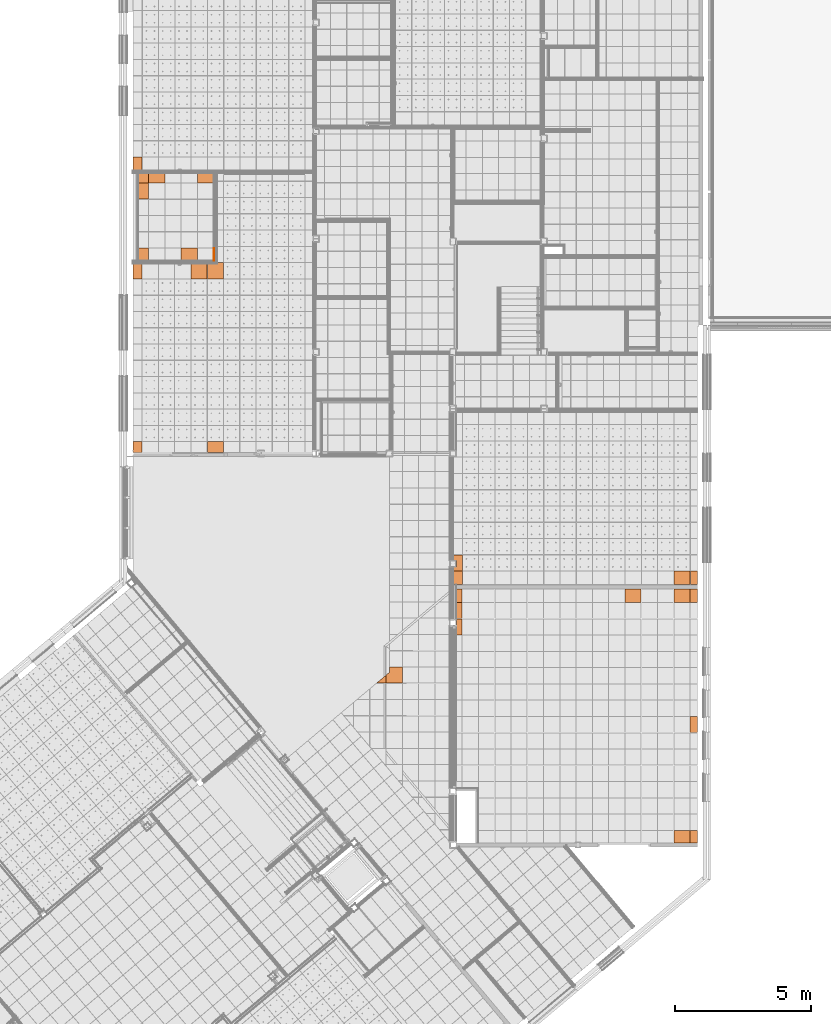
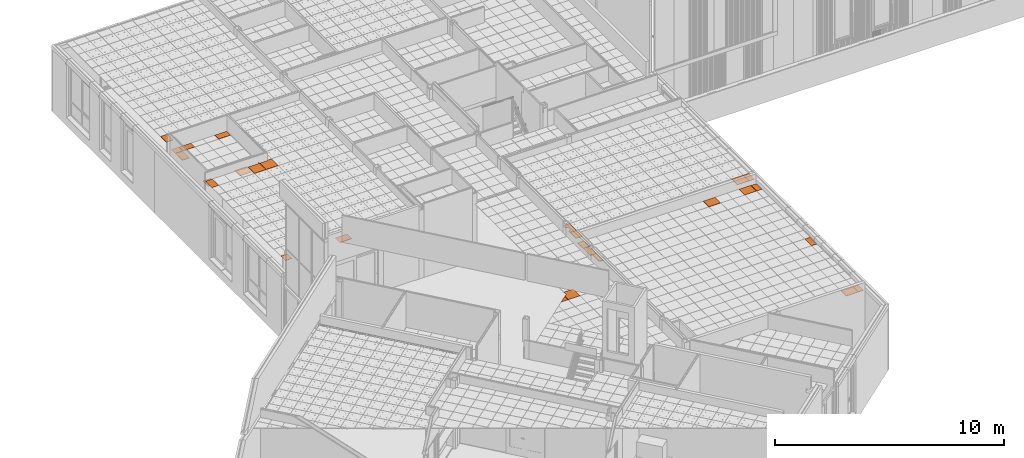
# One storey, part 331 of 338: 28 proxies, 6 elements without a shape of their own.
"""IFC2X3 building model written with IfcOpenShell, lengths in millimetres."""

from ifc_helpers import new_model, entity, si_unit, converted_unit, derived_unit, money_unit, direction, frame, origin_with_axes, place, context, subcontext, project, spatial, faceted_brep, material, type_object, element, aggregate, save


model = new_model("IFC2X3")

# Units and contexts
model_context = context("Model", 3, precision=0.01, world=origin_with_axes(), true_north=direction((0.0, 1.0)))
plan_context = context("Plan", 3, precision=0.01, world=origin_with_axes(), true_north=direction((0.0, 1.0)))
body_context = subcontext(model_context, "Body", "Model", "MODEL_VIEW")
ifc_project = project(units=[si_unit("LENGTHUNIT", "METRE", prefix="MILLI"), si_unit("AREAUNIT", "SQUARE_METRE"), si_unit("VOLUMEUNIT", "CUBIC_METRE"), converted_unit("PLANEANGLEUNIT", "DEGREE", entity("IfcPlaneAngleMeasure", 0.0174532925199), si_unit("PLANEANGLEUNIT", "RADIAN"), dimensions=[0, 0, 0, 0, 0, 0, 0]), money_unit("EUR"), converted_unit("TIMEUNIT", "Year", entity("IfcTimeMeasure", 31556926.0), si_unit("TIMEUNIT", "SECOND"), dimensions=[0, 0, 1, 0, 0, 0, 0]), si_unit("MASSUNIT", "GRAM", prefix="KILO"), si_unit("THERMODYNAMICTEMPERATUREUNIT", "DEGREE_CELSIUS"), si_unit("LUMINOUSINTENSITYUNIT", "LUMEN"), si_unit("ENERGYUNIT", "JOULE", prefix="MEGA"), derived_unit("THERMALCONDUCTANCEUNIT", [(si_unit("POWERUNIT", "WATT"), 1), (si_unit("LENGTHUNIT", "METRE"), -1), (si_unit("THERMODYNAMICTEMPERATUREUNIT", "KELVIN"), -1)]), derived_unit("SPECIFICHEATCAPACITYUNIT", [(si_unit("ENERGYUNIT", "JOULE"), 1), (si_unit("MASSUNIT", "GRAM", prefix="KILO"), -1), (si_unit("THERMODYNAMICTEMPERATUREUNIT", "KELVIN"), -1)]), derived_unit("MASSDENSITYUNIT", [(si_unit("MASSUNIT", "GRAM", prefix="KILO"), 1), (si_unit("VOLUMEUNIT", "CUBIC_METRE"), -1)])], contexts=[model_context, plan_context])

# Site, building, storey
site_placement = place(None, origin_with_axes())
site = spatial("IfcSite", under=ifc_project, at=site_placement, Name="Fortuinstraat Woensdrecht", CompositionType="ELEMENT")
building_placement = place(site_placement, origin_with_axes())
building = spatial("IfcBuilding", under=site, at=building_placement, Name="IKC Fortuna", CompositionType="ELEMENT")
storey_placement = place(building_placement, origin_with_axes())
storey = spatial("IfcBuildingStorey", under=building, at=storey_placement, Name="00 begane grond", CompositionType="ELEMENT", Elevation=0.0)

# Covering, proxy
covering_type = type_object("IfcCoveringType", Name="Curtain Wall Type", PredefinedType="CEILING")
covering_1_placement = place(storey_placement, frame((15059.4416165, 34009.703821, 3210.0), z_axis=(0.0, 0.0, 1.0), x_axis=(1.0, 0.0, 0.0)))
covering_1 = element("IfcCovering", 1, at=covering_1_placement, inside=storey, type_object=covering_type, Name="45_Plafondafwerking_P01", PredefinedType="CEILING")
ifc_material = material(Name="Gipsplaat")
building_element_proxy_type_1 = type_object("IfcBuildingElementProxyType", Name="Main Panel 350 x 503 x 20", PredefinedType="NOTDEFINED")
proxy_1_placement = place(covering_1_placement, frame((-1075.00332811, -7151.29641444, 2.11386463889e-10), z_axis=(0.0, 0.0, 1.0), x_axis=(1.0, 0.0, 0.0)))
proxy_1 = element("IfcBuildingElementProxy", 2, at=proxy_1_placement, type_object=building_element_proxy_type_1, material=ifc_material, Name="__Panel-D", context=body_context, shape_type="Brep", body=[
    faceted_brep([(172.503326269, 248.796414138, -10.0), (-172.503327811, 248.796414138, -10.0), (-172.503327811, 248.796414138, 9.99999999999), (172.503326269, 248.796414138, 9.99999999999), (172.503326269, -248.796414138, -10.0), (-172.503327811, -248.796414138, -10.0), (-172.503327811, -248.796414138, 9.99999999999), (172.503326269, -248.796414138, 9.99999999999)], [[[0, 1, 2, 3]], [[0, 4, 5, 1]], [[1, 5, 6, 2]], [[3, 2, 6, 7]], [[4, 0, 3, 7]], [[5, 4, 7, 6]]]),
])
aggregate(covering_1, [proxy_1])

# Covering, proxies
covering_2_placement = place(storey_placement, frame((34484.9342671, 3789.29664615, 3065.0), z_axis=(0.0, 0.0, 1.0), x_axis=(1.0, 0.0, 0.0)))
covering_2 = element("IfcCovering", 3, at=covering_2_placement, inside=storey, type_object=covering_type, Name="45_Plafondafwerking_P02 gec", PredefinedType="CEILING")
building_element_proxy_type_2 = type_object("IfcBuildingElementProxyType", Name="Distinct Panel 269 x 600 x 20", PredefinedType="NOTDEFINED")
proxy_2_placement = place(covering_2_placement, frame((0.0, 2400.0, 2.87325718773e-10), z_axis=(0.0, 0.0, 1.0), x_axis=(1.0, 0.0, 0.0)))
proxy_2 = element("IfcBuildingElementProxy", 4, at=proxy_2_placement, type_object=building_element_proxy_type_2, material=ifc_material, Name="__Panel-D", context=body_context, shape_type="Brep", body=[
    faceted_brep([(-131.99272743, 297.5, -10.0), (-131.99272743, 297.5, 10.0), (131.992726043, 297.5, 10.0), (131.992726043, 297.5, -10.0), (-131.99272743, -297.5, -10.0), (-131.99272743, -297.5, 10.0), (131.992726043, -297.5, 10.0), (131.992726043, -297.5, -10.0)], [[[0, 1, 2, 3]], [[4, 5, 1, 0]], [[1, 5, 6, 2]], [[3, 2, 6, 7]], [[0, 3, 7, 4]], [[7, 6, 5, 4]]]),
])
building_element_proxy_type_3 = type_object("IfcBuildingElementProxyType", Name="Distinct Panel 600 x 462 x 20", PredefinedType="NOTDEFINED")
proxy_3_placement = place(covering_2_placement, frame((-434.492726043, -1730.99988505, 2.73558953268e-10), z_axis=(0.0, 0.0, 1.0), x_axis=(1.0, 0.0, 0.0)))
proxy_3 = element("IfcBuildingElementProxy", 5, at=proxy_3_placement, type_object=building_element_proxy_type_3, material=ifc_material, Name="__Panel-D", context=body_context, shape_type="Brep", body=[
    faceted_brep([(-297.5, 228.4998861, -10.0), (-297.5, 228.4998861, 9.99999999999), (297.5, 228.4998861, 9.99999999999), (297.5, 228.4998861, -10.0), (-297.5, -228.499532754, -10.0), (-297.5, -228.499532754, 9.99999999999), (297.5, -228.50023907, 9.99999999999), (297.5, -228.50023907, -10.0)], [[[0, 1, 2, 3]], [[4, 5, 1, 0]], [[1, 5, 6, 2]], [[3, 2, 6, 7]], [[0, 3, 7, 4]], [[7, 6, 5, 4]]]),
])
building_element_proxy_type_4 = type_object("IfcBuildingElementProxyType", Name="Distinct Panel 269 x 462 x 20", PredefinedType="NOTDEFINED")
proxy_4_placement = place(covering_2_placement, frame((1.88551894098e-05, -1731.00002666, 2.87325718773e-10), z_axis=(0.0, 0.0, 1.0), x_axis=(1.0, 0.0, 0.0)))
proxy_4 = element("IfcBuildingElementProxy", 6, at=proxy_4_placement, type_object=building_element_proxy_type_4, material=ifc_material, Name="__Panel-D", context=body_context, shape_type="Brep", body=[
    faceted_brep([(-131.992741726, 228.500025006, -10.0), (-131.992741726, 228.500025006, 10.0), (131.992743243, 228.500025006, 10.0), (131.992743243, 228.500025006, -10.0), (-131.992741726, -228.500095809, -10.0), (-131.992741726, -228.500095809, 10.0), (131.992743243, -228.499958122, 10.0), (131.992743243, -228.499958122, -10.0)], [[[0, 1, 2, 3]], [[4, 5, 1, 0]], [[1, 5, 6, 2]], [[3, 2, 6, 7]], [[0, 3, 7, 4]], [[7, 6, 5, 4]]]),
])
building_element_proxy_type_5 = type_object("IfcBuildingElementProxyType", Name="Distinct Panel 328 x 600 x 20", PredefinedType="NOTDEFINED")
proxy_5_placement = place(covering_2_placement, frame((-8716.16375276, 6090.16665956, 0.0), z_axis=(0.0, 0.0, 1.0), x_axis=(1.0, 0.0, 0.0)))
proxy_5 = element("IfcBuildingElementProxy", 7, at=proxy_5_placement, type_object=building_element_proxy_type_5, material=ifc_material, Name="__Panel-D", context=body_context, shape_type="Brep", body=[
    faceted_brep([(-143.335535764, 207.333318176, -10.0), (-143.335535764, 207.333318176, 9.99999999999), (179.171026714, 207.333318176, 9.99999999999), (179.171026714, 207.333318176, -10.0), (-143.335535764, 182.833362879, -10.0), (-143.335535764, 182.833362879, 9.99999999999), (-33.3354910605, 182.833362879, 9.99999999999), (-33.3355000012, -387.666681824, 9.99999999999), (179.171026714, -387.666681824, 9.99999999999), (179.171026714, -387.666681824, -10.0), (-33.3355000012, -387.666681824, -10.0), (-33.3354910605, 182.833362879, -10.0)], [[[0, 1, 2, 3]], [[4, 5, 1, 0]], [[1, 5, 6, 7, 8, 2]], [[3, 2, 8, 9]], [[0, 3, 9, 10, 11, 4]], [[11, 6, 5, 4]], [[10, 7, 6, 11]], [[9, 8, 7, 10]]]),
])
proxy_6_placement = place(covering_2_placement, frame((-8698.24601211, 6599.99997773, 0.0), z_axis=(0.0, 0.0, 1.0), x_axis=(1.0, 0.0, 0.0)))
proxy_6 = element("IfcBuildingElementProxy", 8, at=proxy_6_placement, type_object=building_element_proxy_type_5, material=ifc_material, Name="__Panel-D", context=body_context, shape_type="Brep", body=[
    faceted_brep([(-161.25330323, 297.5, -10.0), (-161.25330323, 297.5, 9.99999999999), (161.253286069, 297.5, 9.99999999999), (161.253286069, 297.5, -10.0), (-161.253276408, -297.5, -10.0), (-161.253276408, -297.5, 9.99999999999), (161.253286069, -297.5, 9.99999999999), (161.253286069, -297.5, -10.0)], [[[0, 1, 2, 3]], [[4, 5, 1, 0]], [[1, 5, 6, 2]], [[3, 2, 6, 7]], [[0, 3, 7, 4]], [[7, 6, 5, 4]]]),
])
building_element_proxy_type_6 = type_object("IfcBuildingElementProxyType", Name="Distinct Panel 328 x 503 x 20", PredefinedType="NOTDEFINED")
proxy_7_placement = place(covering_2_placement, frame((-8698.2460186, 7151.49999471, 0.0), z_axis=(0.0, 0.0, 1.0), x_axis=(1.0, 0.0, 0.0)))
proxy_7 = element("IfcBuildingElementProxy", 9, at=proxy_7_placement, type_object=building_element_proxy_type_6, material=ifc_material, Name="__Panel-D", context=body_context, shape_type="Brep", body=[
    faceted_brep([(-161.253291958, 249.000017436, -10.0), (-161.253291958, 249.000017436, 9.99999999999), (161.253290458, 249.000017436, 9.99999999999), (161.253290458, 249.000017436, -10.0), (-161.253291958, -249.000014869, -10.0), (-161.253291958, -249.000014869, 9.99999999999), (161.253290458, -249.000014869, 9.99999999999), (161.253290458, -249.000014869, -10.0)], [[[0, 1, 2, 3]], [[4, 5, 1, 0]], [[1, 5, 6, 2]], [[3, 2, 6, 7]], [[0, 3, 7, 4]], [[7, 6, 5, 4]]]),
])
building_element_proxy_type_7 = type_object("IfcBuildingElementProxyType", Name="Distinct Panel 600 x 503 x 20", PredefinedType="NOTDEFINED")
proxy_8_placement = place(covering_2_placement, frame((-2234.49272604, 7151.49999159, 2.14939177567e-10), z_axis=(0.0, 0.0, 1.0), x_axis=(1.0, 0.0, 0.0)))
proxy_8 = element("IfcBuildingElementProxy", 10, at=proxy_8_placement, type_object=building_element_proxy_type_7, material=ifc_material, Name="__Panel-D", context=body_context, shape_type="Brep", body=[
    faceted_brep([(-297.5, 249.000022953, -10.0), (-297.5, 249.000022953, 9.99999999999), (297.5, 249.000005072, 9.99999999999), (297.5, 249.000005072, -10.0), (-297.5, -248.999994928, -10.0), (-297.5, -248.999994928, 9.99999999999), (297.5, -248.999994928, 9.99999999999), (297.5, -248.999994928, -10.0)], [[[0, 1, 2, 3]], [[4, 5, 1, 0]], [[1, 5, 6, 2]], [[3, 2, 6, 7]], [[0, 3, 7, 4]], [[7, 6, 5, 4]]]),
])
proxy_9_placement = place(covering_2_placement, frame((-434.492726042, 7151.49996681, 2.73558953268e-10), z_axis=(0.0, 0.0, 1.0), x_axis=(1.0, 0.0, 0.0)))
proxy_9 = element("IfcBuildingElementProxy", 11, at=proxy_9_placement, type_object=building_element_proxy_type_7, material=ifc_material, Name="__Panel-D", context=body_context, shape_type="Brep", body=[
    faceted_brep([(-297.5, 249.000028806, -10.0), (-297.5, 249.000028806, 9.99999999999), (297.5, 248.99994834, 9.99999999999), (297.5, 248.99994834, -10.0), (-297.5, -248.999989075, -10.0), (-297.5, -248.999989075, 9.99999999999), (297.5, -248.999989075, 9.99999999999), (297.5, -248.999989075, -10.0)], [[[0, 1, 2, 3]], [[4, 5, 1, 0]], [[1, 5, 6, 2]], [[3, 2, 6, 7]], [[0, 3, 7, 4]], [[7, 6, 5, 4]]]),
])
building_element_proxy_type_8 = type_object("IfcBuildingElementProxyType", Name="Distinct Panel 269 x 503 x 20", PredefinedType="NOTDEFINED")
proxy_10_placement = place(covering_2_placement, frame((3.24390470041e-06, 7151.49996454, 2.87325718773e-10), z_axis=(0.0, 0.0, 1.0), x_axis=(1.0, 0.0, 0.0)))
proxy_10 = element("IfcBuildingElementProxy", 12, at=proxy_10_placement, type_object=building_element_proxy_type_8, material=ifc_material, Name="__Panel-D", context=body_context, shape_type="Brep", body=[
    faceted_brep([(-131.992732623, 248.999953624, -10.0), (-131.992732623, 248.999953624, 10.0), (131.992733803, 249.000021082, 10.0), (131.992733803, 249.000021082, -10.0), (-131.992732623, -248.999984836, -10.0), (-131.992732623, -248.999984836, 10.0), (131.992726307, -248.999984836, 10.0), (131.992726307, -248.999984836, -10.0)], [[[0, 1, 2, 3]], [[4, 5, 1, 0]], [[1, 5, 6, 2]], [[3, 2, 6, 7]], [[0, 3, 7, 4]], [[7, 6, 5, 4]]]),
])
aggregate(covering_2, [proxy_3, proxy_4, proxy_5, proxy_6, proxy_7, proxy_8, proxy_9, proxy_10, proxy_2])

covering_3_placement = place(storey_placement, frame((14689.4846177, 25257.3287491, 2810.0), z_axis=(0.0, 0.0, 1.0), x_axis=(1.0, 0.0, 0.0)))
covering_3 = element("IfcCovering", 13, at=covering_3_placement, inside=storey, type_object=covering_type, Name="45_Plafondafwerking_P02", PredefinedType="CEILING")
building_element_proxy_type_9 = type_object("IfcBuildingElementProxyType", Name="Distinct Panel 600 x 350 x 20", PredefinedType="NOTDEFINED")
proxy_11_placement = place(covering_3_placement, frame((1800.0, 1074.89114221, 0.0), z_axis=(0.0, 0.0, 1.0), x_axis=(1.0, 0.0, 0.0)))
proxy_11 = element("IfcBuildingElementProxy", 14, at=proxy_11_placement, type_object=building_element_proxy_type_9, material=ifc_material, Name="__Panel-D", context=body_context, shape_type="Brep", body=[
    faceted_brep([(-297.5, 172.391151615, -10.0), (-297.5, 172.391151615, 9.99999999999), (297.5, 172.391133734, 9.99999999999), (297.5, 172.391133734, -10.0), (-297.5, -172.391142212, -10.0), (-297.5, -172.391142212, 9.99999999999), (297.5, -172.391142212, 9.99999999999), (297.5, -172.391142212, -10.0)], [[[0, 1, 2, 3]], [[4, 5, 1, 0]], [[1, 5, 6, 2]], [[3, 2, 6, 7]], [[0, 3, 7, 4]], [[7, 6, 5, 4]]]),
])
proxy_12_placement = place(covering_3_placement, frame((0.0, 1074.89114598, 0.0), z_axis=(0.0, 0.0, 1.0), x_axis=(1.0, 0.0, 0.0)))
proxy_12 = element("IfcBuildingElementProxy", 15, at=proxy_12_placement, type_object=building_element_proxy_type_9, material=ifc_material, Name="__Panel-D", context=body_context, shape_type="Brep", body=[
    faceted_brep([(-297.5, 172.391147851, -10.0), (-297.5, 172.391147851, 9.99999999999), (297.5, 172.391147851, 9.99999999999), (297.5, 172.391147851, -10.0), (-297.5, -172.391145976, -10.0), (-297.5, -172.391145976, 9.99999999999), (297.5, -172.391145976, 9.99999999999), (297.5, -172.391145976, -10.0)], [[[0, 1, 2, 3]], [[4, 5, 1, 0]], [[1, 5, 6, 2]], [[3, 2, 6, 7]], [[0, 3, 7, 4]], [[7, 6, 5, 4]]]),
])
building_element_proxy_type_10 = type_object("IfcBuildingElementProxyType", Name="Distinct Panel 380 x 600 x 20", PredefinedType="NOTDEFINED")
proxy_13_placement = place(covering_3_placement, frame((-490.024816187, 600.0, 0.0), z_axis=(0.0, 0.0, 1.0), x_axis=(1.0, 0.0, 0.0)))
proxy_13 = element("IfcBuildingElementProxy", 16, at=proxy_13_placement, type_object=building_element_proxy_type_10, material=ifc_material, Name="__Panel-D", context=body_context, shape_type="Brep", body=[
    faceted_brep([(-187.524804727, 297.5, -10.0), (-187.524804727, 297.5, 9.99999999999), (187.524816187, 297.5, 9.99999999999), (187.524816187, 297.5, -10.0), (-187.524831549, -297.5, -10.0), (-187.524831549, -297.5, 9.99999999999), (187.524816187, -297.5, 9.99999999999), (187.524816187, -297.5, -10.0)], [[[0, 1, 2, 3]], [[4, 5, 1, 0]], [[1, 5, 6, 2]], [[3, 2, 6, 7]], [[0, 3, 7, 4]], [[7, 6, 5, 4]]]),
])
building_element_proxy_type_11 = type_object("IfcBuildingElementProxyType", Name="Distinct Panel 600 x 475 x 20", PredefinedType="NOTDEFINED")
proxy_14_placement = place(covering_3_placement, frame((1200.0, -1737.39112028, 0.0), z_axis=(0.0, 0.0, 1.0), x_axis=(1.0, 0.0, 0.0)))
proxy_14 = element("IfcBuildingElementProxy", 17, at=proxy_14_placement, type_object=building_element_proxy_type_11, material=ifc_material, Name="__Panel-D", context=body_context, shape_type="Brep", body=[
    faceted_brep([(-297.5, 234.891119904, -10.0), (-297.5, 234.891119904, 9.99999999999), (297.5, 234.891119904, 9.99999999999), (297.5, 234.891119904, -10.0), (-297.5, -234.891120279, -10.0), (-297.5, -234.891120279, 9.99999999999), (297.5, -234.891120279, 9.99999999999), (297.5, -234.891120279, -10.0)], [[[0, 1, 2, 3]], [[4, 5, 1, 0]], [[1, 5, 6, 2]], [[3, 2, 6, 7]], [[0, 3, 7, 4]], [[7, 6, 5, 4]]]),
])
building_element_proxy_type_12 = type_object("IfcBuildingElementProxyType", Name="Distinct Panel 26 x 475 x 20", PredefinedType="NOTDEFINED")
proxy_15_placement = place(covering_3_placement, frame((2113.02414785, -1737.39112252, 0.0), z_axis=(0.0, 0.0, 1.0), x_axis=(1.0, 0.0, 0.0)))
proxy_15 = element("IfcBuildingElementProxy", 18, at=proxy_15_placement, type_object=building_element_proxy_type_12, material=ifc_material, Name="__Panel-D", context=body_context, shape_type="Brep", body=[
    faceted_brep([(-10.5241466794, 234.891123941, -10.0), (-10.5241466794, 234.891123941, 10.0), (10.5241524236, 234.891123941, 10.0), (10.5241524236, 234.891123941, -10.0), (-10.5241466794, -234.891121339, -10.0), (-10.5241466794, -234.891121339, 10.0), (10.5241453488, -234.891128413, 10.0), (10.5241453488, -234.891128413, -10.0)], [[[0, 1, 2, 3]], [[4, 5, 1, 0]], [[1, 5, 6, 2]], [[3, 2, 6, 7]], [[0, 3, 7, 4]], [[7, 6, 5, 4]]]),
])
building_element_proxy_type_13 = type_object("IfcBuildingElementProxyType", Name="Distinct Panel 380 x 350 x 20", PredefinedType="NOTDEFINED")
proxy_16_placement = place(covering_3_placement, frame((-490.024810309, 1074.89114598, 0.0), z_axis=(0.0, 0.0, 1.0), x_axis=(1.0, 0.0, 0.0)))
proxy_16 = element("IfcBuildingElementProxy", 19, at=proxy_16_placement, type_object=building_element_proxy_type_13, material=ifc_material, Name="__Panel-D", context=body_context, shape_type="Brep", body=[
    faceted_brep([(-187.524808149, 172.391144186, -10.0), (-187.524808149, 172.391144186, 9.99999999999), (187.524808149, 172.391144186, 9.99999999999), (187.524808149, 172.391144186, -10.0), (-187.524808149, -172.391143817, -10.0), (-187.524808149, -172.391143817, 9.99999999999), (187.524808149, -172.391143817, 9.99999999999), (187.524808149, -172.391143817, -10.0)], [[[0, 1, 2, 3]], [[4, 5, 1, 0]], [[1, 5, 6, 2]], [[3, 2, 6, 7]], [[0, 3, 7, 4]], [[7, 6, 5, 4]]]),
])
building_element_proxy_type_14 = type_object("IfcBuildingElementProxyType", Name="Distinct Panel 380 x 475 x 20", PredefinedType="NOTDEFINED")
proxy_17_placement = place(covering_3_placement, frame((-490.024821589, -1737.39112028, 0.0), z_axis=(0.0, 0.0, 1.0), x_axis=(1.0, 0.0, 0.0)))
proxy_17 = element("IfcBuildingElementProxy", 20, at=proxy_17_placement, type_object=building_element_proxy_type_14, material=ifc_material, Name="__Panel-D", context=body_context, shape_type="Brep", body=[
    faceted_brep([(-187.524819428, 234.891121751, -10.0), (-187.524819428, 234.891121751, 9.99999999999), (187.524823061, 234.891121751, 9.99999999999), (187.524823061, 234.891121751, -10.0), (-187.524819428, -234.891121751, -10.0), (-187.524819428, -234.891121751, 9.99999999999), (187.524823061, -234.891121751, 9.99999999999), (187.524823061, -234.891121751, -10.0)], [[[0, 1, 2, 3]], [[4, 5, 1, 0]], [[1, 5, 6, 2]], [[3, 2, 6, 7]], [[0, 3, 7, 4]], [[7, 6, 5, 4]]]),
])
aggregate(covering_3, [proxy_11, proxy_15, proxy_13, proxy_14, proxy_16, proxy_17, proxy_12])

covering_4_placement = place(storey_placement, frame((17451.9845996, 24118.5314449, 3210.0), z_axis=(0.0, 0.0, 1.0), x_axis=(1.0, 0.0, 0.0)))
covering_4 = element("IfcCovering", 21, at=covering_4_placement, inside=storey, type_object=covering_type, Name="45_Plafondafwerking_P01", PredefinedType="CEILING")
building_element_proxy_type_15 = type_object("IfcBuildingElementProxyType", Name="600 x 410 x 20", PredefinedType="NOTDEFINED")
proxy_18_placement = place(covering_4_placement, frame((-600.0, -7705.1174153, 1.1768364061e-10), z_axis=(0.0, 0.0, 1.0), x_axis=(1.0, 0.0, 0.0)))
proxy_18 = element("IfcBuildingElementProxy", 22, at=proxy_18_placement, type_object=building_element_proxy_type_15, material=ifc_material, Name="__600x763 Rockfon Krios", context=body_context, shape_type="Brep", body=[
    faceted_brep([(297.5, 202.617412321, -10.0), (-297.5, 202.617412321, -10.0), (-297.5, 202.617412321, 9.99999999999), (297.5, 202.617412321, 9.99999999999), (297.5, -202.617415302, -10.0), (-297.5, -202.617415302, -10.0), (-297.5, -202.617415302, 9.99999999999), (297.5, -202.617415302, 9.99999999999)], [[[0, 1, 2, 3]], [[0, 4, 5, 1]], [[1, 5, 6, 2]], [[3, 2, 6, 7]], [[4, 0, 3, 7]], [[5, 4, 7, 6]]]),
])
building_element_proxy_type_16 = type_object("IfcBuildingElementProxyType", Name="600 x 564 x 20", PredefinedType="NOTDEFINED")
proxy_19_placement = place(covering_4_placement, frame((-1200.0, -1217.99249542, 1.37223565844e-10), z_axis=(0.0, 0.0, 1.0), x_axis=(1.0, 0.0, 0.0)))
proxy_19 = element("IfcBuildingElementProxy", 23, at=proxy_19_placement, type_object=building_element_proxy_type_16, material=ifc_material, Name="__600x738 Rockfon Krios", context=body_context, shape_type="Brep", body=[
    faceted_brep([(297.5, 279.507506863, -10.0), (-297.5, 279.507506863, -10.0), (-297.5, 279.507506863, 9.99999999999), (297.5, 279.507506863, 9.99999999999), (297.5, -279.507504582, -10.0), (-297.5, -279.507504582, -10.0), (-297.5, -279.507504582, 9.99999999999), (297.5, -279.507504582, 9.99999999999)], [[[0, 1, 2, 3]], [[0, 4, 5, 1]], [[1, 5, 6, 2]], [[3, 2, 6, 7]], [[4, 0, 3, 7]], [[5, 4, 7, 6]]]),
])
building_element_proxy_type_17 = type_object("IfcBuildingElementProxyType", Name="343 x 564 x 20", PredefinedType="NOTDEFINED")
proxy_20_placement = place(covering_4_placement, frame((-3471.27477425, -1217.99249542, 2.11386463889e-10), z_axis=(0.0, 0.0, 1.0), x_axis=(1.0, 0.0, 0.0)))
proxy_20 = element("IfcBuildingElementProxy", 24, at=proxy_20_placement, type_object=building_element_proxy_type_17, material=ifc_material, Name="__600x753 Rockfon Krios", context=body_context, shape_type="Brep", body=[
    faceted_brep([(168.774770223, 279.507506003, -10.0), (-168.774775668, 279.507506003, -10.0), (-168.774775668, 279.507506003, 9.99999999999), (168.774770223, 279.507506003, 9.99999999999), (168.774770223, -279.507506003, -10.0), (-168.774775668, -279.507506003, -10.0), (-168.774775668, -279.507506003, 9.99999999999), (168.774770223, -279.507506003, 9.99999999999)], [[[0, 1, 2, 3]], [[0, 4, 5, 1]], [[1, 5, 6, 2]], [[3, 2, 6, 7]], [[4, 0, 3, 7]], [[5, 4, 7, 6]]]),
])
building_element_proxy_type_18 = type_object("IfcBuildingElementProxyType", Name="343 x 410 x 20", PredefinedType="NOTDEFINED")
proxy_21_placement = place(covering_4_placement, frame((-3471.27482045, -7705.1174153, 2.11830553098e-10), z_axis=(0.0, 0.0, 1.0), x_axis=(1.0, 0.0, 0.0)))
proxy_21 = element("IfcBuildingElementProxy", 25, at=proxy_21_placement, type_object=building_element_proxy_type_18, material=ifc_material, Name="__600x764 Rockfon Krios", context=body_context, shape_type="Brep", body=[
    faceted_brep([(168.774820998, 202.617413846, -10.0), (-168.77486019, 202.617413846, -10.0), (-168.77486019, 202.617413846, 9.99999999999), (168.774820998, 202.617413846, 9.99999999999), (168.774820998, -202.617413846, -10.0), (-168.774780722, -202.617413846, -10.0), (-168.774780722, -202.617413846, 9.99999999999), (168.774820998, -202.617413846, 9.99999999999)], [[[0, 1, 2, 3]], [[0, 4, 5, 1]], [[1, 5, 6, 2]], [[3, 2, 6, 7]], [[4, 0, 3, 7]], [[5, 4, 7, 6]]]),
])
building_element_proxy_type_19 = type_object("IfcBuildingElementProxyType", Name="232 x 36 x 20", PredefinedType="NOTDEFINED")
proxy_22_placement = place(covering_4_placement, frame((-577.483457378, -1111.99499695, 1.16795462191e-10), z_axis=(0.0, 0.0, 1.0), x_axis=(1.0, 0.0, 0.0)))
proxy_22 = element("IfcBuildingElementProxy", 26, at=proxy_22_placement, type_object=building_element_proxy_type_19, material=ifc_material, Name="__600x772 Rockfon Krios", context=body_context, shape_type="Brep", body=[
    faceted_brep([(274.983457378, 209.494996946, -10.0), (47.5330872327, 209.494996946, -10.0), (47.5330872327, 209.494996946, 9.99999999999), (274.983457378, 209.494996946, 9.99999999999), (274.983457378, -385.505003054, -10.0), (-320.016542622, -385.505003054, -10.0), (-320.016542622, 173.51000839, -10.0), (47.5330872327, 173.51000839, -10.0), (47.5330872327, 173.51000839, 9.99999999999), (-320.016542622, 173.51000839, 9.99999999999), (-320.016542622, -385.505003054, 9.99999999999), (274.983457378, -385.505003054, 9.99999999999)], [[[0, 1, 2, 3]], [[0, 4, 5, 6, 7, 1]], [[1, 7, 8, 2]], [[3, 2, 8, 9, 10, 11]], [[4, 0, 3, 11]], [[5, 4, 11, 10]], [[6, 5, 10, 9]], [[7, 6, 9, 8]]]),
])
aggregate(covering_4, [proxy_19, proxy_20, proxy_18, proxy_21, proxy_22])

covering_5_placement = place(storey_placement, frame((31656.9226967, 15748.5304598, 3210.0), z_axis=(0.0, 0.0, 1.0), x_axis=(1.0, 0.0, 0.0)))
covering_5 = element("IfcCovering", 27, at=covering_5_placement, inside=storey, type_object=covering_type, Name="45_Plafondafwerking_P01", PredefinedType="CEILING")
building_element_proxy_type_20 = type_object("IfcBuildingElementProxyType", Name="334 x 209 x 20", PredefinedType="NOTDEFINED")
proxy_23_placement = place(covering_5_placement, frame((-5922.99075643, -3615.61691591, 2.90434343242e-10), z_axis=(0.0, 0.0, 1.0), x_axis=(1.0, 0.0, 0.0)))
proxy_23 = element("IfcBuildingElementProxy", 28, at=proxy_23_placement, type_object=building_element_proxy_type_20, material=ifc_material, Name="__600x609 Rockfon Krios", context=body_context, shape_type="Brep", body=[
    faceted_brep([(220.4907554, 313.116915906, -10.0), (-108.496906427, 313.116915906, -10.0), (-108.496906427, 313.116915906, 9.99999999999), (220.4907554, 313.116915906, 9.99999999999), (220.4907554, -281.883084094, -10.0), (-108.496906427, -281.883084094, -10.0), (-108.496906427, -140.616856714, -10.0), (1.50305781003, -140.616856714, -10.0), (1.50305781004, 109.383027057, -10.0), (-108.496906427, 109.383027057, -10.0), (-108.496906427, 109.383027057, 9.99999999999), (1.50305781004, 109.383027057, 9.99999999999), (1.50305781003, -140.616856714, 9.99999999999), (-108.496906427, -140.616856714, 9.99999999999), (-108.496906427, -281.883084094, 9.99999999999), (220.4907554, -281.883084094, 9.99999999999)], [[[0, 1, 2, 3]], [[0, 4, 5, 6, 7, 8, 9, 1]], [[1, 9, 10, 2]], [[3, 2, 10, 11, 12, 13, 14, 15]], [[4, 0, 3, 15]], [[5, 4, 15, 14]], [[6, 5, 14, 13]], [[7, 6, 13, 12]], [[8, 7, 12, 11]], [[9, 8, 11, 10]]]),
])
building_element_proxy_type_21 = type_object("IfcBuildingElementProxyType", Name="600 x 506 x 20", PredefinedType="NOTDEFINED")
proxy_24_placement = place(covering_5_placement, frame((2400.0, -4153.1168964, 0.0), z_axis=(0.0, 0.0, 1.0), x_axis=(1.0, 0.0, 0.0)))
proxy_24 = element("IfcBuildingElementProxy", 29, at=proxy_24_placement, type_object=building_element_proxy_type_21, material=ifc_material, Name="__600x767 Rockfon Krios", context=body_context, shape_type="Brep", body=[
    faceted_brep([(297.5, 250.616892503, -10.0), (-297.5, 250.616892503, -10.0), (-297.5, 250.616892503, 9.99999999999), (297.5, 250.616892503, 9.99999999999), (297.5, -250.616915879, -10.0), (-297.5, -250.616906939, -10.0), (-297.5, -250.616906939, 9.99999999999), (297.5, -250.616915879, 9.99999999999)], [[[0, 1, 2, 3]], [[0, 4, 5, 1]], [[1, 5, 6, 2]], [[3, 2, 6, 7]], [[4, 0, 3, 7]], [[5, 4, 7, 6]]]),
])
building_element_proxy_type_22 = type_object("IfcBuildingElementProxyType", Name="334 x 506 x 20", PredefinedType="NOTDEFINED")
proxy_25_placement = place(covering_5_placement, frame((-5866.99383143, -4153.11690008, 2.88657986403e-10), z_axis=(0.0, 0.0, 1.0), x_axis=(1.0, 0.0, 0.0)))
proxy_25 = element("IfcBuildingElementProxy", 30, at=proxy_25_placement, type_object=building_element_proxy_type_22, material=ifc_material, Name="__600x770 Rockfon Krios", context=body_context, shape_type="Brep", body=[
    faceted_brep([(164.493835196, 250.616900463, -10.0), (-164.493831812, 250.616900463, -10.0), (-164.493831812, 250.616900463, 9.99999999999), (164.493835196, 250.616900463, 9.99999999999), (164.493835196, -250.616871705, -10.0), (-164.493831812, -250.616954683, -10.0), (-164.493831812, -250.616954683, 9.99999999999), (164.493835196, -250.616871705, 9.99999999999)], [[[0, 1, 2, 3]], [[0, 4, 5, 1]], [[1, 5, 6, 2]], [[3, 2, 6, 7]], [[4, 0, 3, 7]], [[5, 4, 7, 6]]]),
])
building_element_proxy_type_23 = type_object("IfcBuildingElementProxyType", Name="263 x 506 x 20", PredefinedType="NOTDEFINED")
proxy_26_placement = place(covering_5_placement, frame((2831.25215667, -4153.11691394, 0.0), z_axis=(0.0, 0.0, 1.0), x_axis=(1.0, 0.0, 0.0)))
proxy_26 = element("IfcBuildingElementProxy", 31, at=proxy_26_placement, type_object=building_element_proxy_type_23, material=ifc_material, Name="__600x774 Rockfon Krios", context=body_context, shape_type="Brep", body=[
    faceted_brep([(128.752156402, 250.61691425, -10.0), (-128.752156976, 250.61691425, -10.0), (-128.752156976, 250.61691425, 9.99999999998), (128.752156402, 250.61691425, 9.99999999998), (128.752156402, -250.616956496, -10.0), (-128.752156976, -250.616896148, -10.0), (-128.752156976, -250.616896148, 9.99999999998), (128.752156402, -250.616956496, 9.99999999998)], [[[0, 1, 2, 3]], [[0, 4, 5, 1]], [[1, 5, 6, 2]], [[3, 2, 6, 7]], [[4, 0, 3, 7]], [[5, 4, 7, 6]]]),
])
aggregate(covering_5, [proxy_23, proxy_24, proxy_25, proxy_26])

covering_6_placement = place(storey_placement, frame((23508.1808374, 14013.4616156, 3010.0), z_axis=(0.0, 0.0, 1.0), x_axis=(1.0, 0.0, 0.0)))
covering_6 = element("IfcCovering", 32, at=covering_6_placement, inside=storey, type_object=covering_type, Name="45_Plafondafwerking_P04", PredefinedType="CEILING")
building_element_proxy_type_24 = type_object("IfcBuildingElementProxyType", Name="Distinct Panel 473 x 600 x 20", PredefinedType="NOTDEFINED")
proxy_27_placement = place(covering_6_placement, frame((-121.084698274, -5981.8808032, 0.0), z_axis=(0.0, 0.0, 1.0), x_axis=(1.0, 0.0, 0.0)))
proxy_27 = element("IfcBuildingElementProxy", 33, at=proxy_27_placement, type_object=building_element_proxy_type_24, material=ifc_material, Name="__Panel-D", context=body_context, shape_type="Brep", body=[
    faceted_brep([(-113.160855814, 279.380803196, -10.0), (-113.160855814, 279.380803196, 9.99999999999), (355.330462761, 279.380803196, 9.99999999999), (355.330462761, 279.380803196, -10.0), (-113.160998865, 88.1491852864, -10.0), (-113.160998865, 88.1491852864, 9.99999999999), (-239.669537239, -18.0039421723, 9.99999999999), (-239.669537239, -315.619196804, 9.99999999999), (355.330462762, -315.619196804, 9.99999999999), (355.330462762, -315.619196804, -10.0), (-239.669537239, -315.619196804, -10.0), (-239.669537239, -18.0039421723, -10.0)], [[[0, 1, 2, 3]], [[4, 5, 1, 0]], [[1, 5, 6, 7, 8, 2]], [[3, 2, 8, 9]], [[0, 3, 9, 10, 11, 4]], [[11, 6, 5, 4]], [[10, 7, 6, 11]], [[9, 8, 7, 10]]]),
])
building_element_proxy_type_25 = type_object("IfcBuildingElementProxyType", Name="Distinct Panel 359 x 301 x 20", PredefinedType="NOTDEFINED")
proxy_28_placement = place(covering_6_placement, frame((-482.938463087, -6199.57299155, 0.0), z_axis=(0.0, 0.0, 1.0), x_axis=(1.0, 0.0, 0.0)))
proxy_28 = element("IfcBuildingElementProxy", 34, at=proxy_28_placement, type_object=building_element_proxy_type_25, material=ifc_material, Name="__Panel-D", context=body_context, shape_type="Brep", body=[
    faceted_brep([(117.184225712, 195.492752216, -10.0), (117.184225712, 195.492752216, 9.99999999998), (117.184225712, -97.9270065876, 9.99999999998), (117.184225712, -97.9270065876, -10.0), (-232.499760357, -97.9270065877, -10.0), (-232.499760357, -97.9270065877, 9.99999999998)], [[[0, 1, 2, 3]], [[4, 5, 1, 0]], [[1, 5, 2]], [[3, 2, 5, 4]], [[0, 3, 4]]]),
])
aggregate(covering_6, [proxy_27, proxy_28])

save(model, "model.ifc")
